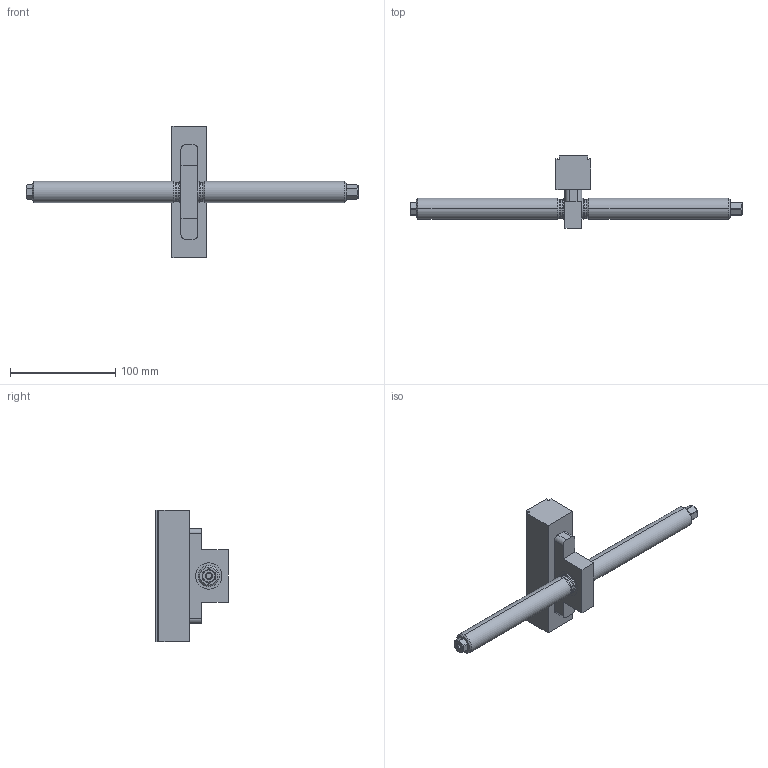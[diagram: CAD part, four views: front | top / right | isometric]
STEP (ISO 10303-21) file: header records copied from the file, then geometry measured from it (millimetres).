
FILE_DESCRIPTION (( 'STEP AP214' ), '1' );
FILE_NAME ('47305-TG27.STEP', '2023-02-20T08:57:35', ( '' ), ( '' ), 'SwSTEP 2.0', 'SolidWorks 2021', '' );
FILE_SCHEMA (( 'AUTOMOTIVE_DESIGN' ));
Length unit declared in the file: millimetre
Products named in the file (1): 47305-TG27
Bounding box: 315 x 68.8 x 124.6 mm (x, y, z)
Volume: 255271.1 mm3; surface area: 45331.9 mm2
Topology: 2 solids, 2 shells, 118 faces, 289 edges, 184 vertices
Faces by surface type: plane 57, cylinder 37, cone 16, torus 8
Entity records: 5026 total; most frequent: CARTESIAN_POINT 852, DIRECTION 607, ORIENTED_EDGE 578, EDGE_CURVE 289, AXIS2_PLACEMENT_3D 223, VERTEX_POINT 184, LINE 161, VECTOR 161
